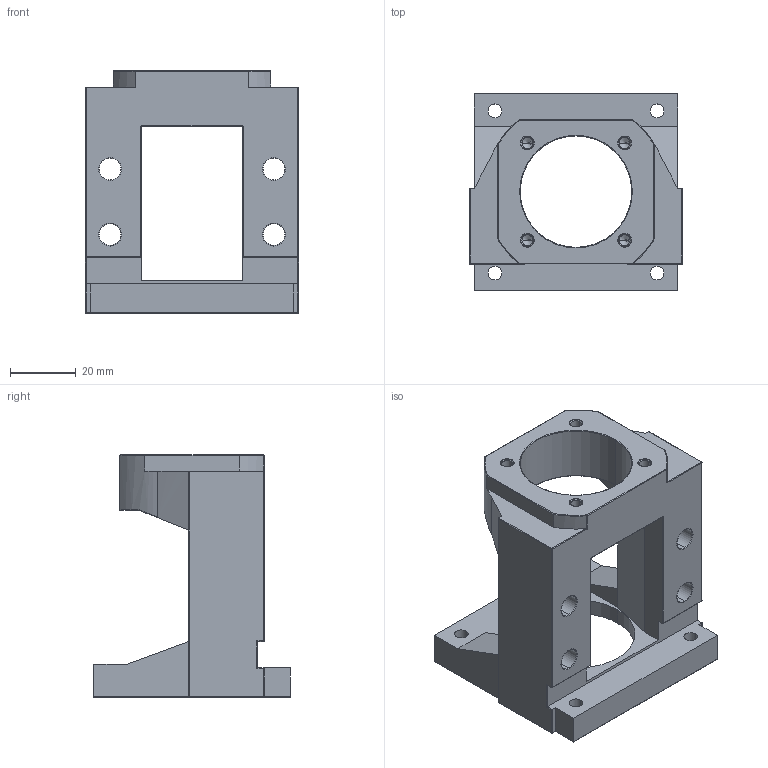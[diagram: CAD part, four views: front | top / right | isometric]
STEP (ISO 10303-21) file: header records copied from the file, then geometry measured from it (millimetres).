
FILE_DESCRIPTION (( 'STEP AP203' ), '1' );
FILE_NAME ('MBA10-D.STEP', '2017-12-28T05:58:42', ( '' ), ( '' ), 'SwSTEP 2.0', 'SolidWorks 2017', '' );
FILE_SCHEMA (( 'CONFIG_CONTROL_DESIGN' ));
Length unit declared in the file: millimetre
Products named in the file (1): MBA10-D
Bounding box: 65 x 60 x 74 mm (x, y, z)
Volume: 79382.9 mm3; surface area: 26159.4 mm2
Topology: 1 solids, 1 shells, 211 faces, 510 edges, 290 vertices
Faces by surface type: cylinder 92, plane 43, torus 38, cone 24, sphere 10, bspline 4
Entity records: 6190 total; most frequent: CARTESIAN_POINT 1259, DIRECTION 1078, ORIENTED_EDGE 984, EDGE_CURVE 492, AXIS2_PLACEMENT_3D 428, VERTEX_POINT 290, EDGE_LOOP 240, LINE 222
